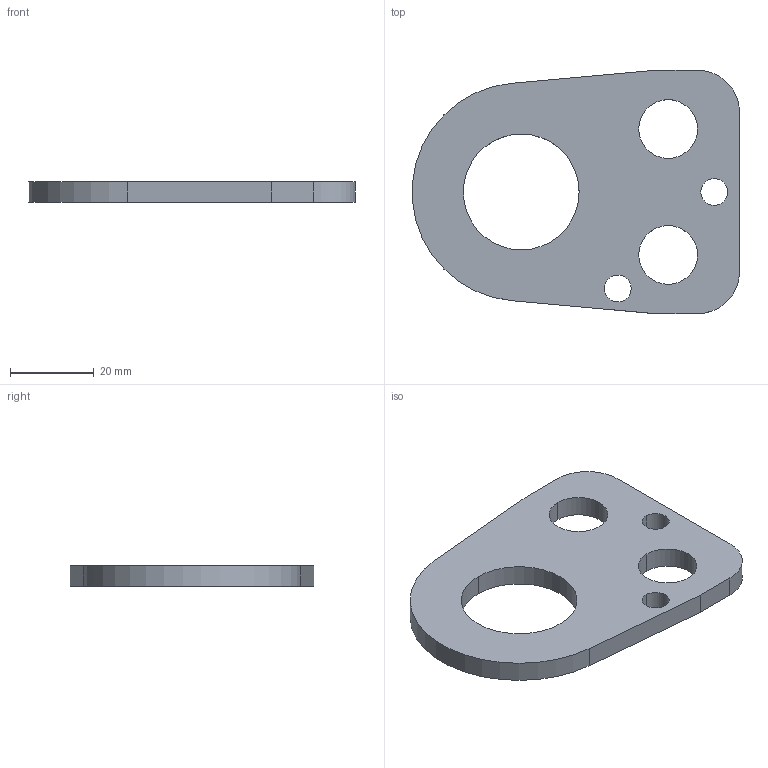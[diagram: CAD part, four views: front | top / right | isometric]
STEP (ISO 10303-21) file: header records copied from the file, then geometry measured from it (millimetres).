
FILE_DESCRIPTION(/* description */ (''),/* implementation_level */ '2;1');
FILE_NAME(/* name */ '3d_bdc38_03369_r00.stp',/* time_stamp */ '2011-01-10T14:17:24+09:00',/* author */ ('MISUMI'),/* organization */ (''),/* preprocessor_version */ 'ST-DEVELOPER v11',/* originating_system */ 'UGS - NX 5.0',/* authorisation */ '');
FILE_SCHEMA (('CONFIG_CONTROL_DESIGN'));
Length unit declared in the file: millimetre
Products named in the file (1): 3d_bdc38_03369_r00
Bounding box: 77.9 x 58 x 5 mm (x, y, z)
Volume: 14860 mm3; surface area: 8195.3 mm2
Topology: 1 solids, 1 shells, 20 faces, 54 edges, 36 vertices
Faces by surface type: cylinder 13, plane 7
Entity records: 750 total; most frequent: DIRECTION 122, CARTESIAN_POINT 111, ORIENTED_EDGE 108, EDGE_CURVE 54, AXIS2_PLACEMENT_3D 47, VERTEX_POINT 36, EDGE_LOOP 30, LINE 28
